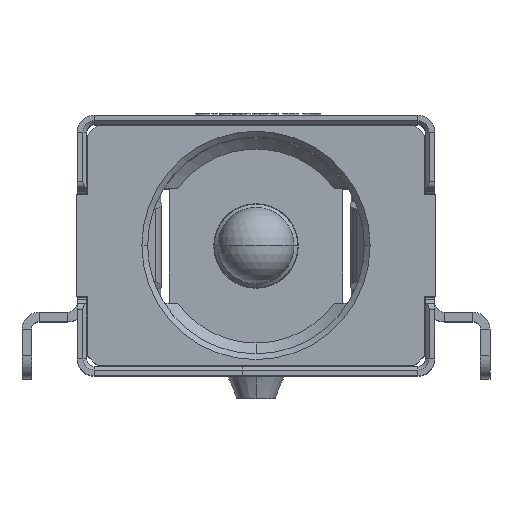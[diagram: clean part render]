
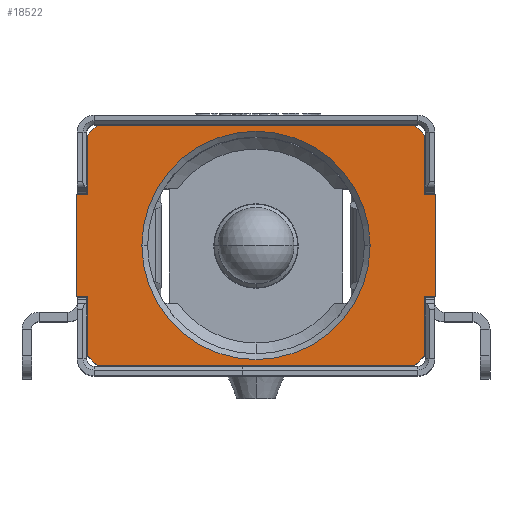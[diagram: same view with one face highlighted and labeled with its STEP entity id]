
A CAD part, top view. The second image highlights one B-rep face of the part: STEP entity #18522.
In plain terms, the highlighted planar face has unit normal (0, 0, 1).
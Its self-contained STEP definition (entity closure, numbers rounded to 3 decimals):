
#227 = VERTEX_POINT ( 'NONE', #33246 ) ;
#275 = CARTESIAN_POINT ( 'NONE',  ( 4.175, 3.15, 14. ) ) ;
#686 = DIRECTION ( 'NONE',  ( -1., 0., 0. ) ) ;
#957 = EDGE_LOOP ( 'NONE', ( #14374, #33283, #30613, #21674, #7074, #25679, #15366, #27827, #5472, #8469, #3170, #30751, #15270, #4973, #28900, #4688 ) ) ;
#1194 = CARTESIAN_POINT ( 'NONE',  ( 4.425, -2.9, 14. ) ) ;
#1390 = VECTOR ( 'NONE', #17364, 1000. ) ;
#1817 = CARTESIAN_POINT ( 'NONE',  ( -4.175, -3.15, 14. ) ) ;
#1918 = CARTESIAN_POINT ( 'NONE',  ( -4.425, 1.35, 14. ) ) ;
#1939 = DIRECTION ( 'NONE',  ( -1., 0., 0. ) ) ;
#2467 = VERTEX_POINT ( 'NONE', #20613 ) ;
#2601 = DIRECTION ( 'NONE',  ( 0., 0., 1. ) ) ;
#3069 = VECTOR ( 'NONE', #30434, 1000. ) ;
#3170 = ORIENTED_EDGE ( 'NONE', *, *, #23177, .T. ) ;
#3207 = DIRECTION ( 'NONE',  ( 0.707, -0.707, 0. ) ) ;
#3250 = CARTESIAN_POINT ( 'NONE',  ( 4.425, 2.9, 14. ) ) ;
#3603 = VECTOR ( 'NONE', #27906, 1000. ) ;
#3793 = VERTEX_POINT ( 'NONE', #15191 ) ;
#3815 = EDGE_CURVE ( 'NONE', #14260, #16881, #5766, .T. ) ;
#4438 = EDGE_CURVE ( 'NONE', #31053, #227, #6808, .T. ) ;
#4657 = VERTEX_POINT ( 'NONE', #28531 ) ;
#4676 = DIRECTION ( 'NONE',  ( 1., 0., 0. ) ) ;
#4688 = ORIENTED_EDGE ( 'NONE', *, *, #29685, .F. ) ;
#4883 = DIRECTION ( 'NONE',  ( 0., 1., 0. ) ) ;
#4973 = ORIENTED_EDGE ( 'NONE', *, *, #6822, .F. ) ;
#5082 = EDGE_CURVE ( 'NONE', #26984, #8282, #24150, .T. ) ;
#5289 = EDGE_LOOP ( 'NONE', ( #14636, #31577 ) ) ;
#5472 = ORIENTED_EDGE ( 'NONE', *, *, #8880, .T. ) ;
#5515 = EDGE_CURVE ( 'NONE', #8247, #2467, #14781, .T. ) ;
#5573 = CARTESIAN_POINT ( 'NONE',  ( 4.175, 3.15, 14. ) ) ;
#5766 = CIRCLE ( 'NONE', #16805, 3. ) ;
#6031 = DIRECTION ( 'NONE',  ( -1., 0., 0. ) ) ;
#6067 = EDGE_CURVE ( 'NONE', #16881, #14260, #25410, .T. ) ;
#6146 = EDGE_CURVE ( 'NONE', #15362, #19095, #8454, .T. ) ;
#6488 = DIRECTION ( 'NONE',  ( 1., 0., 0. ) ) ;
#6522 = CARTESIAN_POINT ( 'NONE',  ( -4.425, 2.9, 14. ) ) ;
#6692 = LINE ( 'NONE', #6522, #11461 ) ;
#6713 = CARTESIAN_POINT ( 'NONE',  ( -4.725, -1.35, 14. ) ) ;
#6808 = LINE ( 'NONE', #6984, #3069 ) ;
#6822 = EDGE_CURVE ( 'NONE', #15362, #24301, #26842, .T. ) ;
#6984 = CARTESIAN_POINT ( 'NONE',  ( -4.425, -1.35, 14. ) ) ;
#7074 = ORIENTED_EDGE ( 'NONE', *, *, #4438, .T. ) ;
#7123 = LINE ( 'NONE', #25583, #20984 ) ;
#7642 = LINE ( 'NONE', #25768, #17054 ) ;
#7697 = DIRECTION ( 'NONE',  ( -0.707, -0.707, 0. ) ) ;
#8061 = FACE_OUTER_BOUND ( 'NONE', #957, .T. ) ;
#8247 = VERTEX_POINT ( 'NONE', #33353 ) ;
#8282 = VERTEX_POINT ( 'NONE', #28520 ) ;
#8454 = LINE ( 'NONE', #27090, #21527 ) ;
#8469 = ORIENTED_EDGE ( 'NONE', *, *, #5082, .T. ) ;
#8570 = CARTESIAN_POINT ( 'NONE',  ( 4.425, -2.9, 14. ) ) ;
#8808 = CARTESIAN_POINT ( 'NONE',  ( -3., 0., 14. ) ) ;
#8880 = EDGE_CURVE ( 'NONE', #14490, #26984, #32939, .T. ) ;
#9087 = EDGE_CURVE ( 'NONE', #2467, #31053, #27761, .T. ) ;
#10010 = VECTOR ( 'NONE', #3207, 1000. ) ;
#11461 = VECTOR ( 'NONE', #17548, 1000. ) ;
#12473 = CARTESIAN_POINT ( 'NONE',  ( -4.175, 3.15, 14. ) ) ;
#12919 = DIRECTION ( 'NONE',  ( 0.707, 0.707, 0. ) ) ;
#13286 = EDGE_CURVE ( 'NONE', #28467, #24301, #13793, .T. ) ;
#13565 = VECTOR ( 'NONE', #24831, 1000. ) ;
#13567 = DIRECTION ( 'NONE',  ( 1., 0., 0. ) ) ;
#13793 = LINE ( 'NONE', #24330, #30182 ) ;
#13808 = EDGE_CURVE ( 'NONE', #22983, #32421, #6692, .T. ) ;
#14258 = LINE ( 'NONE', #22206, #3603 ) ;
#14260 = VERTEX_POINT ( 'NONE', #20105 ) ;
#14374 = ORIENTED_EDGE ( 'NONE', *, *, #13808, .T. ) ;
#14490 = VERTEX_POINT ( 'NONE', #8570 ) ;
#14596 = EDGE_CURVE ( 'NONE', #32421, #8247, #14258, .T. ) ;
#14636 = ORIENTED_EDGE ( 'NONE', *, *, #3815, .F. ) ;
#14725 = EDGE_CURVE ( 'NONE', #14490, #21600, #17540, .T. ) ;
#14781 = LINE ( 'NONE', #33078, #1390 ) ;
#15191 = CARTESIAN_POINT ( 'NONE',  ( -4.175, -3.15, 14. ) ) ;
#15268 = CARTESIAN_POINT ( 'NONE',  ( 4.175, -3.15, 14. ) ) ;
#15270 = ORIENTED_EDGE ( 'NONE', *, *, #13286, .T. ) ;
#15362 = VERTEX_POINT ( 'NONE', #5573 ) ;
#15366 = ORIENTED_EDGE ( 'NONE', *, *, #17760, .T. ) ;
#15696 = CARTESIAN_POINT ( 'NONE',  ( 0., 0., 14. ) ) ;
#16407 = CARTESIAN_POINT ( 'NONE',  ( -4.175, -3.15, 14. ) ) ;
#16805 = AXIS2_PLACEMENT_3D ( 'NONE', #15696, #2601, #4676 ) ;
#16865 = VECTOR ( 'NONE', #12919, 1000. ) ;
#16881 = VERTEX_POINT ( 'NONE', #8808 ) ;
#17054 = VECTOR ( 'NONE', #4883, 1000. ) ;
#17364 = DIRECTION ( 'NONE',  ( 0., -1., 0. ) ) ;
#17540 = LINE ( 'NONE', #22714, #26224 ) ;
#17548 = DIRECTION ( 'NONE',  ( 0., -1., 0. ) ) ;
#17743 = CARTESIAN_POINT ( 'NONE',  ( -4.425, -1.35, 14. ) ) ;
#17760 = EDGE_CURVE ( 'NONE', #3793, #21600, #28224, .T. ) ;
#18522 = ADVANCED_FACE ( 'NONE', ( #21170, #8061 ), #29603, .T. ) ;
#18584 = CARTESIAN_POINT ( 'NONE',  ( 0., 0., 14. ) ) ;
#18784 = CARTESIAN_POINT ( 'NONE',  ( -4.425, 2.9, 14. ) ) ;
#19095 = VERTEX_POINT ( 'NONE', #12473 ) ;
#20105 = CARTESIAN_POINT ( 'NONE',  ( 3., 0., 14. ) ) ;
#20613 = CARTESIAN_POINT ( 'NONE',  ( -4.725, -1.35, 14. ) ) ;
#20984 = VECTOR ( 'NONE', #1939, 1000. ) ;
#20994 = AXIS2_PLACEMENT_3D ( 'NONE', #29328, #26917, #6031 ) ;
#21170 = FACE_BOUND ( 'NONE', #5289, .T. ) ;
#21251 = DIRECTION ( 'NONE',  ( -0.707, 0.707, 0. ) ) ;
#21333 = VECTOR ( 'NONE', #28731, 1000. ) ;
#21527 = VECTOR ( 'NONE', #686, 1000. ) ;
#21600 = VERTEX_POINT ( 'NONE', #15268 ) ;
#21674 = ORIENTED_EDGE ( 'NONE', *, *, #9087, .T. ) ;
#22206 = CARTESIAN_POINT ( 'NONE',  ( -4.425, 1.35, 14. ) ) ;
#22714 = CARTESIAN_POINT ( 'NONE',  ( 4.425, -2.9, 14. ) ) ;
#22983 = VERTEX_POINT ( 'NONE', #27843 ) ;
#23177 = EDGE_CURVE ( 'NONE', #8282, #4657, #7642, .T. ) ;
#23251 = EDGE_CURVE ( 'NONE', #3793, #227, #26612, .T. ) ;
#23405 = CARTESIAN_POINT ( 'NONE',  ( 4.425, -1.35, 14. ) ) ;
#24150 = LINE ( 'NONE', #26909, #30635 ) ;
#24301 = VERTEX_POINT ( 'NONE', #3250 ) ;
#24330 = CARTESIAN_POINT ( 'NONE',  ( 4.425, 1.35, 14. ) ) ;
#24831 = DIRECTION ( 'NONE',  ( 0., 1., 0. ) ) ;
#25410 = CIRCLE ( 'NONE', #20994, 3. ) ;
#25583 = CARTESIAN_POINT ( 'NONE',  ( 4.725, 1.35, 14. ) ) ;
#25679 = ORIENTED_EDGE ( 'NONE', *, *, #23251, .F. ) ;
#25768 = CARTESIAN_POINT ( 'NONE',  ( 4.725, -1.35, 14. ) ) ;
#25837 = AXIS2_PLACEMENT_3D ( 'NONE', #18584, #32188, #13567 ) ;
#26224 = VECTOR ( 'NONE', #7697, 1000. ) ;
#26338 = EDGE_CURVE ( 'NONE', #4657, #28467, #7123, .T. ) ;
#26612 = LINE ( 'NONE', #16407, #27552 ) ;
#26842 = LINE ( 'NONE', #275, #10010 ) ;
#26909 = CARTESIAN_POINT ( 'NONE',  ( 4.425, -1.35, 14. ) ) ;
#26917 = DIRECTION ( 'NONE',  ( 0., 0., 1. ) ) ;
#26984 = VERTEX_POINT ( 'NONE', #23405 ) ;
#27082 = DIRECTION ( 'NONE',  ( 1., 0., 0. ) ) ;
#27090 = CARTESIAN_POINT ( 'NONE',  ( 4.175, 3.15, 14. ) ) ;
#27552 = VECTOR ( 'NONE', #21251, 1000. ) ;
#27761 = LINE ( 'NONE', #6713, #21333 ) ;
#27827 = ORIENTED_EDGE ( 'NONE', *, *, #14725, .F. ) ;
#27843 = CARTESIAN_POINT ( 'NONE',  ( -4.425, 2.9, 14. ) ) ;
#27906 = DIRECTION ( 'NONE',  ( -1., 0., 0. ) ) ;
#28224 = LINE ( 'NONE', #1817, #33787 ) ;
#28467 = VERTEX_POINT ( 'NONE', #31720 ) ;
#28520 = CARTESIAN_POINT ( 'NONE',  ( 4.725, -1.35, 14. ) ) ;
#28531 = CARTESIAN_POINT ( 'NONE',  ( 4.725, 1.35, 14. ) ) ;
#28731 = DIRECTION ( 'NONE',  ( 1., 0., 0. ) ) ;
#28900 = ORIENTED_EDGE ( 'NONE', *, *, #6146, .T. ) ;
#29328 = CARTESIAN_POINT ( 'NONE',  ( 0., 0., 14. ) ) ;
#29603 = PLANE ( 'NONE',  #25837 ) ;
#29685 = EDGE_CURVE ( 'NONE', #22983, #19095, #31895, .T. ) ;
#30182 = VECTOR ( 'NONE', #30193, 1000. ) ;
#30193 = DIRECTION ( 'NONE',  ( 0., 1., 0. ) ) ;
#30434 = DIRECTION ( 'NONE',  ( 0., -1., 0. ) ) ;
#30613 = ORIENTED_EDGE ( 'NONE', *, *, #5515, .T. ) ;
#30635 = VECTOR ( 'NONE', #27082, 1000. ) ;
#30751 = ORIENTED_EDGE ( 'NONE', *, *, #26338, .T. ) ;
#31053 = VERTEX_POINT ( 'NONE', #17743 ) ;
#31577 = ORIENTED_EDGE ( 'NONE', *, *, #6067, .F. ) ;
#31720 = CARTESIAN_POINT ( 'NONE',  ( 4.425, 1.35, 14. ) ) ;
#31895 = LINE ( 'NONE', #18784, #16865 ) ;
#32188 = DIRECTION ( 'NONE',  ( 0., 0., 1. ) ) ;
#32421 = VERTEX_POINT ( 'NONE', #1918 ) ;
#32939 = LINE ( 'NONE', #1194, #13565 ) ;
#33078 = CARTESIAN_POINT ( 'NONE',  ( -4.725, 1.35, 14. ) ) ;
#33246 = CARTESIAN_POINT ( 'NONE',  ( -4.425, -2.9, 14. ) ) ;
#33283 = ORIENTED_EDGE ( 'NONE', *, *, #14596, .T. ) ;
#33353 = CARTESIAN_POINT ( 'NONE',  ( -4.725, 1.35, 14. ) ) ;
#33787 = VECTOR ( 'NONE', #6488, 1000. ) ;
